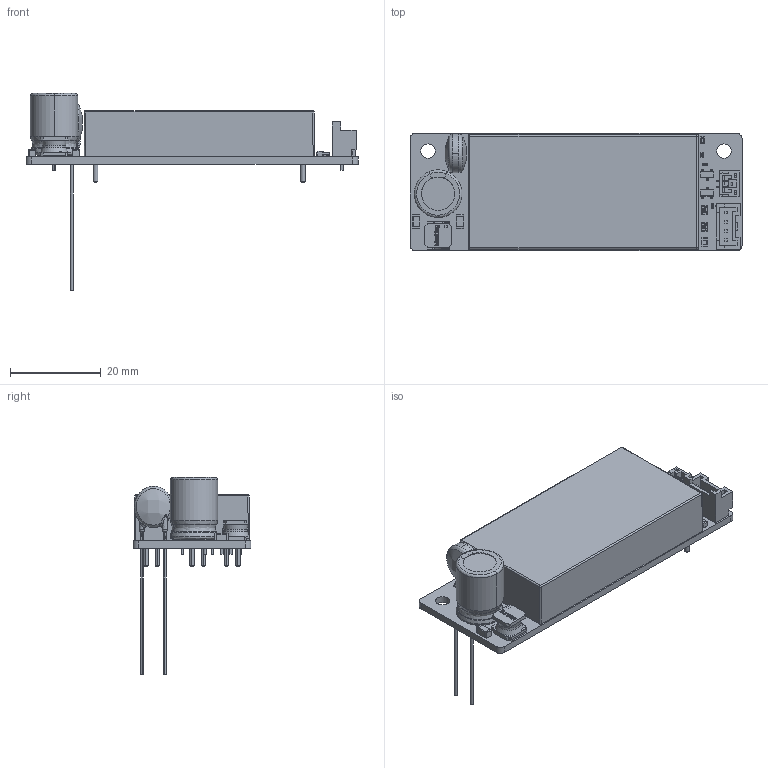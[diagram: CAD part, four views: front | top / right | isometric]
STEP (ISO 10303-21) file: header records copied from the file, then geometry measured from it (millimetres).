
FILE_DESCRIPTION(('Open CASCADE Model'),'2;1');
FILE_NAME('Open CASCADE Shape Model','2025-02-14T16:40:19',('Author'),( 'Open CASCADE'),'Open CASCADE STEP processor 7.5','Open CASCADE 7.5' ,'Unknown');
FILE_SCHEMA(('AUTOMOTIVE_DESIGN { 1 0 10303 214 1 1 1 1 }'));
Length unit declared in the file: millimetre
Products named in the file (34): Open CASCADE STEP translator 7.5 1; Open CASCADE STEP translator 7.5 2; Open CASCADE STEP translator 7.5 3; Open CASCADE STEP translator 7.5 4; Open CASCADE STEP translator 7.5 5; Open CASCADE STEP translator 7.5 6; Open CASCADE STEP translator 7.5 7; Open CASCADE STEP translator 7.5 8; Open CASCADE STEP translator 7.5 9; Open CASCADE STEP translator 7.5 10; Open CASCADE STEP translator 7.5 11; Open CASCADE STEP translator 7.5 12; Open CASCADE STEP translator 7.5 13; Open CASCADE STEP translator 7.5 14; Open CASCADE STEP translator 7.5 15; Open CASCADE STEP translator 7.5 16; Open CASCADE STEP translator 7.5 17; Open CASCADE STEP translator 7.5 18; Open CASCADE STEP translator 7.5 19; Open CASCADE STEP translator 7.5 20; Open CASCADE STEP translator 7.5 21; Open CASCADE STEP translator 7.5 22; Open CASCADE STEP translator 7.5 23; Open CASCADE STEP translator 7.5 24; Open CASCADE STEP translator 7.5 25; Open CASCADE STEP translator 7.5 26; Open CASCADE STEP translator 7.5 27; Open CASCADE STEP translator 7.5 28; Open CASCADE STEP translator 7.5 29; Open CASCADE STEP translator 7.5 30; Open CASCADE STEP translator 7.5 31; Open CASCADE STEP translator 7.5 32; Open CASCADE STEP translator 7.5 33; Open CASCADE STEP translator 7.5 34
Bounding box: 73.2 x 26 x 43.47 mm (x, y, z)
Volume: 17938 mm3; surface area: 11426.9 mm2
Topology: 42 solids, 43 shells, 1676 faces, 4412 edges, 2838 vertices
Faces by surface type: plane 839, bspline 400, cylinder 364, sphere 28, cone 19, extrusion 16, torus 10
Full cylindrical faces by diameter (mm): 0.8 x6, 1 x2, 1.1 x1, 1.3 x6, 3.2 x2, 4 x1
Entity records: 65920 total; most frequent: CARTESIAN_POINT 19468, ORIENTED_EDGE 8654, DIRECTION 6211, EDGE_CURVE 4328, VERTEX_POINT 2838, VECTOR 2421, LINE 2405, AXIS2_PLACEMENT_3D 1895
